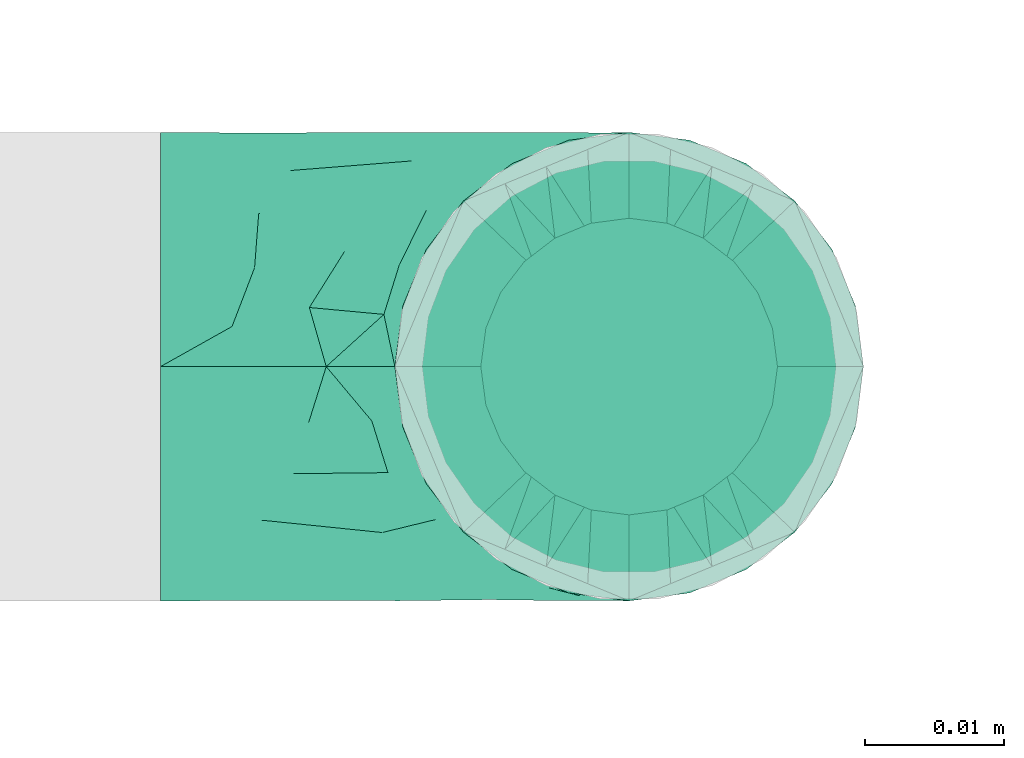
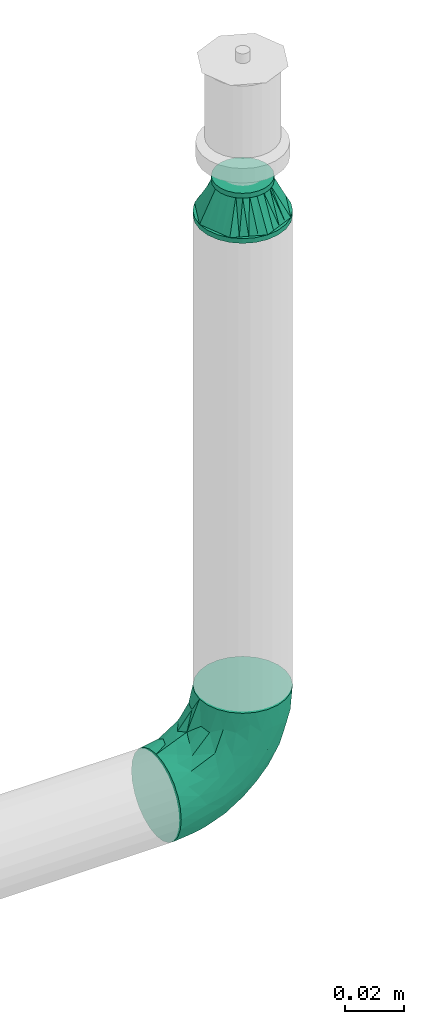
# One storey, part 62 of 157: 2 flow fittings.
"""IFC2X3 building model written with IfcOpenShell, lengths in millimetres."""

from ifc_helpers import new_model, entity, si_unit, converted_unit, derived_unit, direction, frame, origin_with_axes, place, context, subcontext, project, spatial, open_shell, surface_model, source, transform, mapped, type_object, element, save


model = new_model("IFC2X3")

# Units and contexts
model_context = context("Model", 3, precision=0.01, world=frame((0.0, 4.29681676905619e-09, 0.0)), true_north=direction((4.01073788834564e-13, 1.0)))
plan_context = context("Plan", 3, precision=0.01, world=frame((0.0, 4.29681676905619e-09, 0.0)), true_north=direction((4.01073788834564e-13, 1.0)))
body_context = subcontext(model_context, "Body", "Model", "MODEL_VIEW")
ifc_project = project(units=[converted_unit("PLANEANGLEUNIT", "DEGREE", entity("IfcPositiveLengthMeasure", 0.0174532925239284), si_unit("PLANEANGLEUNIT", "RADIAN"), dimensions=[0, 0, 0, 0, 0, 0, 0]), si_unit("AREAUNIT", "SQUARE_METRE"), si_unit("LENGTHUNIT", "METRE", prefix="MILLI"), si_unit("MASSUNIT", "GRAM", prefix="KILO"), si_unit("POWERUNIT", "WATT"), si_unit("PRESSUREUNIT", "PASCAL"), si_unit("FORCEUNIT", "NEWTON", prefix="KILO"), si_unit("ELECTRICCURRENTUNIT", "AMPERE"), si_unit("THERMODYNAMICTEMPERATUREUNIT", "DEGREE_CELSIUS"), si_unit("TIMEUNIT", "SECOND"), si_unit("VOLUMEUNIT", "CUBIC_METRE"), derived_unit("LINEARVELOCITYUNIT", [(si_unit("LENGTHUNIT", "METRE"), 1), (si_unit("TIMEUNIT", "SECOND"), -1)]), derived_unit("VOLUMETRICFLOWRATEUNIT", [(si_unit("VOLUMEUNIT", "CUBIC_METRE"), 1), (si_unit("TIMEUNIT", "SECOND"), -1)]), derived_unit("THERMALTRANSMITTANCEUNIT", [(si_unit("POWERUNIT", "WATT"), 1), (si_unit("THERMODYNAMICTEMPERATUREUNIT", "KELVIN"), -1), (si_unit("AREAUNIT", "SQUARE_METRE"), -1)])], contexts=[model_context, plan_context])

# Site, building, storey
site_placement = place(None, frame((0.0, -4.29681676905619e-09, 0.0), z_axis=(0.0, 0.0, 1.0), x_axis=(1.0, 0.0, 0.0)))
site = spatial("IfcSite", under=ifc_project, at=site_placement, CompositionType="ELEMENT")
building_placement = place(site_placement, frame((0.0, 4.29681676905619e-09, 0.0), z_axis=(0.0, 0.0, 1.0), x_axis=(1.0, 0.0, 0.0)))
building = spatial("IfcBuilding", under=site, at=building_placement, Name="mc-building", CompositionType="ELEMENT")
storey_placement = place(building_placement, frame((0.0, 0.0, 204000.0), z_axis=(0.0, 0.0, 1.0), x_axis=(1.0, 0.0, 0.0)))
storey = spatial("IfcBuildingStorey", under=building, at=storey_placement, Name="Nivå D", CompositionType="ELEMENT", Elevation=204000.0)

# Flow fittings
pipe_fitting_type_1 = type_object("IfcPipeFittingType", Name="magi_pipe_fe_reducer_centric_short_NOR", PredefinedType="TRANSITION")
shared_shape_1 = source(origin_with_axes(), body_context, "Body", "SurfaceModel", [
    surface_model("IfcShellBasedSurfaceModel", [(14.4, 5.35, -9.26647), (14.4, 0.0, -10.7), (14.4, 2.76936, -10.33541), (14.4, 10.33541, -2.76936), (14.4, 7.56604, -7.56604), (14.4, -10.33541, -2.76936), (14.4, 9.26647, -5.35), (14.4, 0.0, 10.7), (14.4, -5.35, -9.26647), (14.4, -2.76936, -10.33541), (14.4, -7.56604, -7.56604), (14.4, -9.26647, -5.35), (14.4, 10.7, 0.0), (14.4, 10.33541, 2.76936), (14.4, 9.26647, 5.35), (14.4, 7.56604, 7.56604), (14.4, 2.76936, 10.33541), (14.4, 5.35, 9.26647), (14.4, -10.33541, 2.76936), (14.4, -7.56604, 7.56604), (14.4, -9.26647, 5.35), (14.4, -10.7, 0.0), (14.4, -2.76936, 10.33541), (14.4, -5.35, 9.26647), (12.4, 2.76936, 10.33541), (12.4, -10.33541, -2.76936), (12.4, 0.0, 10.7), (12.4, 5.35, 9.26647), (12.4, 7.56604, 7.56604), (12.4, 9.26647, 5.35), (12.4, 10.33541, 2.76936), (12.4, -10.33541, 2.76936), (12.4, -2.76936, 10.33541), (12.4, -7.56604, 7.56604), (12.4, -5.35, 9.26647), (12.4, -9.26647, 5.35), (12.4, -10.7, 0.0), (12.4, 10.33541, -2.76936), (12.4, 5.35, -9.26647), (12.4, 9.26647, -5.35), (12.4, 7.56604, -7.56604), (12.4, 2.76936, -10.33541), (12.4, -9.26647, -5.35), (12.4, -5.35, -9.26647), (12.4, -7.56604, -7.56604), (12.4, 0.0, -10.7), (12.4, -2.76936, -10.33541), (12.4, 10.7, 0.0), (-2.0, 11.9501, 11.9501), (-2.0, 0.0, 16.9), (-2.0, 4.37404, 16.32415), (-2.0, 8.45, 14.63583), (-2.0, 14.63583, 8.45), (-2.0, 16.32415, 4.37404), (-2.0, -16.32415, 4.37404), (-2.0, -8.45, 14.63583), (-2.0, -14.63583, 8.45), (-2.0, -11.9501, 11.9501), (-2.0, -4.37404, 16.32415), (-2.0, -16.32415, -4.37404), (-2.0, -16.9, 0.0), (-2.0, -8.45, -14.63583), (-2.0, 16.32415, -4.37404), (-2.0, 11.9501, -11.9501), (-2.0, 14.63583, -8.45), (-2.0, 8.45, -14.63583), (-2.0, 4.37404, -16.32415), (-2.0, 0.0, -16.9), (-2.0, -11.9501, -11.9501), (-2.0, -14.63583, -8.45), (-2.0, -4.37404, -16.32415), (-2.0, 16.9, 0.0), (0.0, 4.37404, -16.32415), (0.0, 8.45, -14.63583), (0.0, 11.9501, -11.9501), (0.0, 0.0, -16.9), (0.0, 16.32415, -4.37404), (0.0, 16.32415, 4.37404), (0.0, 14.63583, -8.45), (0.0, -8.45, -14.63583), (0.0, -4.37404, -16.32415), (0.0, -11.9501, -11.9501), (0.0, -16.32415, -4.37404), (0.0, -14.63583, -8.45), (0.0, -16.32415, 4.37404), (0.0, 16.9, 0.0), (0.0, 14.63583, 8.45), (0.0, 11.9501, 11.9501), (0.0, 4.37404, 16.32415), (0.0, 8.45, 14.63583), (0.0, 0.0, 16.9), (0.0, -14.63583, 8.45), (0.0, -16.9, 0.0), (0.0, -8.45, 14.63583), (0.0, -11.9501, 11.9501), (0.0, -4.37404, 16.32415), (12.4, 9.3625, -2.31662), (0.0, 14.42505, -5.97505), (0.0, 15.66253, -2.98753), (12.4, -6.6875, -6.94985), (0.0, -13.18758, -8.96258), (0.0, 2.98753, -15.66253), (12.4, 0.0, -9.26647), (12.4, 6.6875, -6.94985), (0.0, 8.96258, -13.18758), (12.4, -9.3625, -2.31662), (0.0, -15.66253, -2.98753), (0.0, -14.42505, -5.97505), (0.0, 5.97505, -14.42505), (0.0, -2.98753, -15.66253), (0.0, -8.96258, -13.18758), (0.0, 13.18758, -8.96258), (12.4, 8.025, -4.63324), (12.4, -2.675, -9.26647), (12.4, 2.675, -9.26647), (0.0, -5.97505, -14.42505), (12.4, -8.025, -4.63324), (12.4, -9.3625, 2.31662), (0.0, -14.42505, 5.97505), (0.0, -15.66253, 2.98753), (12.4, 6.6875, 6.94985), (0.0, 13.18758, 8.96258), (0.0, -2.98753, 15.66253), (12.4, 0.0, 9.26647), (12.4, -6.6875, 6.94985), (0.0, -8.96258, 13.18758), (12.4, 9.3625, 2.31662), (0.0, 15.66253, 2.98753), (0.0, 14.42505, 5.97505), (0.0, -5.97505, 14.42505), (0.0, 2.98753, 15.66253), (0.0, 8.96258, 13.18758), (0.0, -13.18758, 8.96258), (12.4, -8.025, 4.63324), (12.4, 2.675, 9.26647), (12.4, -2.675, 9.26647), (0.0, 5.97505, 14.42505), (12.4, 8.025, 4.63324)], [open_shell([[[0, 1, 2]], [[3, 0, 4]], [[5, 0, 3]], [[3, 4, 6]], [[7, 5, 3]], [[1, 8, 9]], [[1, 0, 8]], [[10, 5, 11]], [[5, 10, 8]], [[0, 5, 8]], [[3, 12, 13]], [[13, 14, 15]], [[13, 15, 16]], [[7, 3, 16]], [[16, 15, 17]], [[7, 18, 5]], [[18, 19, 20]], [[21, 5, 18]], [[19, 22, 23]], [[22, 19, 18]], [[7, 22, 18]], [[13, 16, 3]], [[24, 25, 26]], [[27, 25, 24]], [[28, 29, 30]], [[28, 25, 27]], [[31, 26, 25]], [[32, 33, 34]], [[33, 32, 31]], [[33, 31, 35]], [[32, 26, 31]], [[31, 25, 36]], [[30, 37, 28]], [[25, 28, 37]], [[38, 37, 39]], [[37, 38, 25]], [[38, 39, 40]], [[41, 25, 38]], [[42, 43, 44]], [[43, 42, 25]], [[43, 45, 46]], [[43, 25, 41]], [[41, 45, 43]], [[37, 30, 47]], [[25, 5, 36]], [[42, 11, 25]], [[8, 44, 43]], [[42, 44, 10]], [[9, 43, 46]], [[25, 11, 5]], [[5, 21, 36]], [[9, 8, 43]], [[10, 44, 8]], [[10, 11, 42]], [[1, 9, 46]], [[46, 45, 1]], [[41, 2, 45]], [[38, 0, 41]], [[6, 40, 39]], [[38, 40, 4]], [[3, 39, 37]], [[38, 4, 0]], [[0, 2, 41]], [[12, 3, 37]], [[6, 39, 3]], [[6, 4, 40]], [[47, 12, 37]], [[45, 2, 1]], [[30, 13, 47]], [[29, 14, 30]], [[17, 28, 27]], [[29, 28, 15]], [[16, 27, 24]], [[30, 14, 13]], [[13, 12, 47]], [[16, 17, 27]], [[15, 28, 17]], [[15, 14, 29]], [[7, 16, 24]], [[24, 26, 7]], [[32, 22, 26]], [[34, 23, 32]], [[20, 33, 35]], [[34, 33, 19]], [[18, 35, 31]], [[34, 19, 23]], [[23, 22, 32]], [[21, 18, 31]], [[20, 35, 18]], [[20, 19, 33]], [[36, 21, 31]], [[26, 22, 7]], [[48, 49, 50]], [[48, 50, 51]], [[48, 52, 53]], [[48, 53, 49]], [[49, 53, 54]], [[55, 56, 57]], [[55, 58, 49]], [[56, 55, 49]], [[49, 54, 56]], [[54, 59, 60]], [[54, 53, 61]], [[53, 62, 63]], [[63, 62, 64]], [[63, 65, 66]], [[61, 53, 63]], [[67, 63, 66]], [[59, 68, 69]], [[68, 59, 61]], [[61, 67, 70]], [[59, 54, 61]], [[63, 67, 61]], [[53, 71, 62]], [[72, 73, 74]], [[75, 72, 74]], [[74, 76, 77]], [[76, 74, 78]], [[74, 77, 79]], [[75, 79, 80]], [[75, 74, 79]], [[81, 82, 83]], [[82, 81, 79]], [[79, 84, 82]], [[77, 76, 85]], [[77, 86, 87]], [[77, 87, 88]], [[88, 84, 79]], [[88, 87, 89]], [[84, 88, 90]], [[90, 91, 84]], [[92, 82, 84]], [[91, 93, 94]], [[91, 90, 93]], [[93, 90, 95]], [[79, 77, 88]], [[59, 82, 60]], [[69, 83, 59]], [[79, 68, 61]], [[69, 68, 81]], [[80, 61, 70]], [[59, 83, 82]], [[82, 92, 60]], [[80, 79, 61]], [[81, 68, 79]], [[81, 83, 69]], [[75, 80, 70]], [[70, 67, 75]], [[66, 72, 67]], [[65, 73, 66]], [[78, 63, 64]], [[65, 63, 74]], [[76, 64, 62]], [[65, 74, 73]], [[73, 72, 66]], [[85, 76, 62]], [[78, 64, 76]], [[78, 74, 63]], [[71, 85, 62]], [[67, 72, 75]], [[53, 77, 71]], [[52, 86, 53]], [[89, 48, 51]], [[52, 48, 87]], [[88, 51, 50]], [[53, 86, 77]], [[77, 85, 71]], [[88, 89, 51]], [[87, 48, 89]], [[87, 86, 52]], [[90, 88, 50]], [[50, 49, 90]], [[58, 95, 49]], [[55, 93, 58]], [[91, 57, 56]], [[55, 57, 94]], [[84, 56, 54]], [[55, 94, 93]], [[93, 95, 58]], [[92, 84, 54]], [[91, 56, 84]], [[91, 94, 57]], [[60, 92, 54]], [[49, 95, 90]], [[27, 34, 47]], [[47, 34, 43]], [[43, 38, 47]], [[43, 34, 36]], [[90, 87, 94]], [[92, 94, 87]], [[87, 74, 92]], [[75, 92, 74]], [[81, 92, 75]], [[74, 87, 85]], [[96, 97, 98]], [[81, 99, 100]], [[101, 102, 75]], [[98, 85, 47]], [[74, 103, 104]], [[104, 103, 38]], [[105, 106, 107]], [[38, 108, 104]], [[102, 109, 75]], [[110, 99, 81]], [[47, 96, 98]], [[103, 111, 112]], [[109, 102, 113]], [[36, 92, 106]], [[102, 101, 114]], [[110, 115, 43]], [[96, 112, 97]], [[107, 116, 105]], [[36, 106, 105]], [[113, 115, 109]], [[43, 115, 113]], [[116, 107, 100]], [[108, 38, 114]], [[111, 103, 74]], [[111, 97, 112]], [[99, 110, 43]], [[116, 100, 99]], [[101, 108, 114]], [[117, 118, 119]], [[87, 120, 121]], [[122, 123, 90]], [[119, 92, 36]], [[94, 124, 125]], [[125, 124, 34]], [[126, 127, 128]], [[34, 129, 125]], [[123, 130, 90]], [[131, 120, 87]], [[36, 117, 119]], [[124, 132, 133]], [[130, 123, 134]], [[47, 85, 127]], [[123, 122, 135]], [[131, 136, 27]], [[117, 133, 118]], [[128, 137, 126]], [[47, 127, 126]], [[134, 136, 130]], [[27, 136, 134]], [[137, 128, 121]], [[129, 34, 135]], [[132, 124, 94]], [[132, 118, 133]], [[120, 131, 27]], [[137, 121, 120]], [[122, 129, 135]]])]),
])
flow_fitting_1_placement = place(storey_placement, frame((520040.35, 411870.36705, 3160.14799999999), z_axis=(0.0, -1.0, 0.0), x_axis=(0.0, 0.0, 1.0)))
element("IfcFlowFitting", 1, at=flow_fitting_1_placement, inside=storey, type_object=pipe_fitting_type_1, Name="magi_pipe_fe_reducer_centric_short_NOR", context=body_context, shape_type="MappedRepresentation", body=[
    mapped(shared_shape_1, transform((0.0, 0.0, 0.0), scale=1.0)),
])
pipe_fitting_type_2 = type_object("IfcPipeFittingType", Name="magi_pipe_fe_elbow_short_001", PredefinedType="BEND")
shared_shape_2 = source(origin_with_axes(), body_context, "Body", "SurfaceModel", [
    surface_model("IfcShellBasedSurfaceModel", [(-33.8, 8.45, -14.63583), (-33.8, 4.37404, -16.32415), (-33.8, 11.9501, -11.9501), (-33.8, -11.9501, -11.9501), (-33.8, -14.63583, -8.45), (-33.8, -8.45, -14.63583), (-33.8, 0.0, -16.9), (-33.8, -4.37404, -16.32415), (-33.8, -4.37404, 16.32415), (-33.8, 0.0, 16.9), (-33.8, -8.45, 14.63583), (-33.8, 16.32415, -4.37404), (-33.8, 14.63583, -8.45), (-33.8, -16.32415, -4.37404), (-33.8, -16.9, 0.0), (-33.8, -16.32415, 4.37404), (-33.8, 11.9501, 11.9501), (-33.8, 14.63583, 8.45), (-33.8, 16.32415, 4.37404), (-33.8, 4.37404, 16.32415), (-33.8, 8.45, 14.63583), (-33.8, -14.63583, 8.45), (-33.8, -11.9501, 11.9501), (-33.8, 16.9, 0.0), (-11.9501, 33.8, -11.9501), (0.0, 33.8, -16.9), (-4.37404, 33.8, -16.32415), (-8.45, 33.8, -14.63583), (-14.63583, 33.8, -8.45), (-16.32415, 33.8, -4.37404), (14.63583, 33.8, -8.45), (8.45, 33.8, 14.63583), (16.32415, 33.8, -4.37404), (8.45, 33.8, -14.63583), (11.9501, 33.8, -11.9501), (4.37404, 33.8, -16.32415), (16.32415, 33.8, 4.37404), (16.9, 33.8, 0.0), (-11.9501, 33.8, 11.9501), (-16.32415, 33.8, 4.37404), (-14.63583, 33.8, 8.45), (-8.45, 33.8, 14.63583), (-4.37404, 33.8, 16.32415), (11.9501, 33.8, 11.9501), (14.63583, 33.8, 8.45), (0.0, 33.8, 16.9), (4.37404, 33.8, 16.32415), (-16.9, 33.8, 0.0), (-24.79389, -13.12945, 9.48721), (-22.19287, -9.75018, 12.59315), (-24.09897, -14.97035, 0.0), (-14.93934, -10.76256, 8.5297), (-22.46095, -14.75051, 5.27077), (14.75051, 22.46094, 5.27077), (11.9251, 13.23888, 4.33236), (13.04069, 14.39795, 0.0), (7.71387, 13.68847, 11.55891), (9.75018, 22.19287, 12.59315), (4.10169, 13.0571, 14.04018), (-24.84007, -6.39063, 15.2048), (-25.81779, -2.23879, 16.61097), (-23.66549, 2.59054, 16.87119), (-26.50418, 14.06512, 11.08152), (-24.21253, 17.66365, 7.72657), (-29.58514, 15.86957, 7.00283), (-6.17382, -7.5455, 0.0), (-13.23888, -11.9251, 4.33236), (-14.39795, -13.04069, 0.0), (-17.81434, 18.87373, 11.97104), (-6.30846, 29.15138, 15.82987), (-2.31622, 25.28002, 16.85849), (-29.23923, 10.23435, 13.77053), (-1.45439, -2.85688, 7.61475), (-0.28326, 0.34872, 10.09509), (-5.74484, -4.04709, 10.4122), (-4.41137, 11.31918, 16.59407), (-8.39727, 3.10034, 15.7812), (-1.72649, 9.1306, 15.53089), (-17.39909, 24.75344, 7.64977), (-26.19233, 20.0512, 0.0), (-28.14518, 17.29657, 4.25857), (-26.05147, 6.6281, 15.96447), (-5.87354, 16.61944, 16.86968), (-12.51807, 12.51807, 16.48937), (-10.06312, 7.38516, 16.81295), (-3.01882, 3.01882, 13.81718), (-13.0571, -4.10169, 14.04018), (-16.82553, -0.15166, 16.38038), (10.76256, 14.93934, 8.5297), (13.12945, 24.79389, 9.48721), (6.39063, 24.84007, 15.2048), (2.23879, 25.81779, 16.61097), (-13.68847, -7.71387, 11.55891), (14.97035, 24.09897, 0.0), (-7.30894, 22.89991, 16.09489), (-10.67958, 26.17414, 14.008), (-12.78295, 18.26924, 15.06066), (-13.88562, 22.45231, 12.93244), (-18.04944, 15.16501, 14.04434), (-23.11658, 20.08178, 4.02986), (-21.84989, 21.84989, 0.0), (-18.55817, 25.48277, 3.93065), (-13.95142, 26.94732, 11.03289), (-18.57098, 7.23906, 16.59756), (-16.58335, 4.14122, 16.89279), (-17.96666, 11.46709, 15.63151), (-9.84453, 17.54304, 16.18938), (0.15166, 16.82553, 16.38038), (-23.27207, 11.47201, 14.23154), (3.84842, 5.86994, 10.70473), (-8.0212, -7.54413, 7.93275), (1.00345, -2.19508, 4.57414), (5.13203, 3.01004, 5.90201), (5.24161, 1.7543, 2.53265), (8.70457, 7.04947, 3.99182), (-20.0512, 26.19233, 0.0), (8.4852, 8.76699, 7.09296), (-4.55488, -6.72064, 4.90681), (2.05031, -2.05031, 0.0), (7.5455, 6.17382, 0.0), (-26.75399, 2.1369, -16.845), (-14.61995, 24.73803, -11.27736), (-28.45274, -13.45335, -9.81895), (-26.00469, 6.63555, -15.96645), (-23.06726, 20.04573, -4.26202), (-13.80647, -4.26506, -14.17873), (-14.67501, -0.21081, -16.07388), (-6.7902, -0.2828, -13.8478), (-24.53586, 11.08096, -14.13417), (-26.72048, 14.00837, -11.05776), (10.0967, 24.44989, -12.75976), (5.83237, 21.40218, -15.03047), (6.66249, 28.54238, -15.38093), (-20.38182, 15.48705, -12.74596), (12.53268, 21.23441, -9.15363), (12.54494, 15.67504, -5.54878), (9.7522, 12.89279, -8.66343), (-15.65186, 19.64213, -13.01327), (-12.03528, 20.66498, -14.67665), (-15.61907, 15.61906, -14.83879), (-25.56551, -15.26206, 0.0), (-24.65452, -15.12934, -5.50955), (13.45335, 28.45274, -9.81895), (15.12934, 24.65452, -5.50955), (-7.35442, -8.31014, -5.65563), (-15.67504, -12.54494, -5.54878), (-24.44989, -10.0967, -12.75976), (0.16522, 0.41303, -9.71728), (-5.70658, -5.33066, -8.89288), (-5.13869, -2.37198, -11.53565), (-21.23441, -12.53268, -9.15363), (0.71146, 7.93863, -14.09382), (0.21081, 14.67501, -16.07388), (3.49291, 14.42772, -14.76381), (-24.89911, -2.13088, -16.591), (-28.54238, -6.66249, -15.38093), (-18.44386, -7.71663, -13.26957), (2.13088, 24.89911, -16.591), (-28.64342, 17.44413, -2.89318), (1.70017, -1.28722, -5.09504), (-16.57067, 26.81947, -7.36596), (-17.69055, 27.4263, -3.76405), (-12.89279, -9.7522, -8.66343), (-5.96611, 5.96611, -15.95814), (-20.53709, 20.09345, -8.28985), (-2.1369, 26.75399, -16.845), (-6.89872, 24.58781, -16.02578), (-10.60739, 26.53157, -13.98044), (-21.40218, -5.83237, -15.03047), (2.93192, 5.89627, -11.55917), (6.89393, 12.61842, -11.82233), (5.58056, 5.95325, -8.79455), (-3.99512, 18.61798, -16.89635), (8.31014, 7.35442, -5.65563), (-9.1383, 9.86148, -16.89041), (-9.99983, 16.02119, -16.39699), (-16.68576, 9.78031, -16.34199), (-27.01915, 16.61158, -7.12979), (15.26206, 25.56551, 0.0), (-18.61798, 3.99512, -16.89635), (-19.37495, 27.82495, 0.0), (-12.61842, -6.89393, -11.82233), (-18.84705, 19.14018, -10.96545)], [open_shell([[[0, 1, 2]], [[3, 4, 5]], [[6, 7, 5]], [[8, 9, 10]], [[1, 6, 2]], [[11, 12, 2]], [[4, 2, 6]], [[2, 13, 10]], [[5, 4, 6]], [[2, 4, 13]], [[14, 15, 13]], [[11, 2, 16]], [[11, 17, 18]], [[11, 16, 17]], [[19, 20, 16]], [[16, 2, 10]], [[19, 16, 10]], [[21, 22, 15]], [[22, 13, 15]], [[22, 10, 13]], [[10, 9, 19]], [[11, 18, 23]], [[24, 25, 26]], [[24, 26, 27]], [[24, 28, 29]], [[25, 24, 30]], [[31, 32, 24]], [[33, 30, 34]], [[33, 35, 25]], [[25, 30, 33]], [[32, 30, 24]], [[32, 36, 37]], [[38, 24, 29]], [[39, 40, 29]], [[40, 38, 29]], [[38, 41, 42]], [[38, 31, 24]], [[31, 38, 42]], [[36, 43, 44]], [[36, 32, 43]], [[31, 45, 46]], [[32, 31, 43]], [[42, 45, 31]], [[39, 29, 47]], [[22, 48, 49]], [[15, 14, 50]], [[51, 48, 52]], [[53, 54, 55]], [[48, 22, 21]], [[15, 52, 21]], [[56, 57, 58]], [[49, 10, 22]], [[49, 59, 10]], [[9, 60, 61]], [[62, 63, 64]], [[65, 66, 67]], [[57, 43, 31]], [[62, 68, 63]], [[42, 69, 70]], [[20, 71, 16]], [[8, 60, 9]], [[72, 73, 74]], [[75, 76, 77]], [[16, 62, 17]], [[40, 39, 78]], [[79, 23, 80]], [[64, 18, 17]], [[9, 61, 19]], [[19, 81, 20]], [[82, 83, 84]], [[74, 85, 86]], [[59, 86, 87]], [[88, 89, 57]], [[90, 31, 46]], [[44, 53, 36]], [[46, 45, 91]], [[54, 53, 88]], [[44, 89, 53]], [[92, 86, 49]], [[89, 44, 43]], [[10, 59, 8]], [[53, 55, 93]], [[93, 36, 53]], [[66, 52, 67]], [[94, 82, 70]], [[95, 96, 94]], [[97, 98, 96]], [[79, 99, 100]], [[41, 38, 95]], [[101, 100, 99]], [[68, 78, 63]], [[42, 41, 69]], [[23, 18, 80]], [[95, 94, 69]], [[78, 101, 99]], [[38, 102, 95]], [[70, 45, 42]], [[97, 95, 102]], [[15, 50, 52]], [[90, 57, 31]], [[57, 90, 58]], [[81, 19, 61]], [[103, 104, 84]], [[105, 81, 103]], [[38, 40, 102]], [[106, 96, 83]], [[94, 106, 82]], [[91, 70, 107]], [[71, 62, 16]], [[62, 108, 98]], [[86, 59, 49]], [[67, 52, 50]], [[60, 59, 87]], [[92, 49, 51]], [[86, 85, 76]], [[91, 90, 46]], [[37, 36, 93]], [[107, 77, 58]], [[107, 58, 90]], [[58, 85, 109]], [[110, 74, 92]], [[72, 74, 110]], [[66, 51, 52]], [[72, 111, 112]], [[113, 114, 112]], [[56, 88, 57]], [[52, 48, 21]], [[49, 48, 51]], [[57, 89, 43]], [[53, 89, 88]], [[103, 81, 61]], [[71, 81, 108]], [[18, 64, 80]], [[63, 78, 99]], [[47, 115, 101]], [[101, 115, 100]], [[40, 78, 102]], [[68, 102, 78]], [[97, 96, 95]], [[105, 98, 108]], [[103, 84, 83]], [[107, 70, 82]], [[76, 84, 87]], [[82, 84, 75]], [[70, 91, 45]], [[90, 91, 107]], [[59, 60, 8]], [[61, 60, 87]], [[73, 85, 74]], [[109, 112, 116]], [[103, 61, 104]], [[105, 103, 83]], [[96, 105, 83]], [[81, 105, 108]], [[96, 98, 105]], [[62, 98, 68]], [[61, 87, 104]], [[87, 84, 104]], [[86, 76, 87]], [[77, 76, 85]], [[58, 77, 85]], [[75, 77, 107]], [[82, 75, 107]], [[76, 75, 84]], [[81, 71, 20]], [[62, 71, 108]], [[95, 69, 41]], [[70, 69, 94]], [[62, 64, 17]], [[80, 63, 99]], [[63, 80, 64]], [[80, 99, 79]], [[66, 65, 117]], [[110, 66, 117]], [[112, 114, 116]], [[118, 117, 65]], [[110, 92, 51]], [[112, 111, 113]], [[119, 55, 54]], [[74, 86, 92]], [[58, 109, 56]], [[116, 56, 109]], [[66, 110, 51]], [[72, 110, 117]], [[111, 72, 117]], [[73, 112, 109]], [[117, 118, 111]], [[113, 111, 118]], [[118, 119, 113]], [[114, 119, 54]], [[119, 114, 113]], [[116, 54, 88]], [[54, 116, 114]], [[116, 88, 56]], [[112, 73, 72]], [[85, 73, 109]], [[78, 39, 101]], [[47, 101, 39]], [[102, 68, 97]], [[97, 68, 98]], [[82, 106, 83]], [[94, 96, 106]], [[1, 120, 6]], [[28, 24, 121]], [[3, 122, 4]], [[0, 123, 1]], [[100, 124, 79]], [[125, 126, 127]], [[128, 2, 129]], [[130, 131, 132]], [[128, 129, 133]], [[134, 135, 136]], [[137, 138, 139]], [[128, 0, 2]], [[67, 140, 141]], [[134, 142, 143]], [[141, 13, 4]], [[144, 65, 145]], [[146, 3, 5]], [[147, 148, 149]], [[145, 141, 150]], [[151, 152, 153]], [[154, 7, 6]], [[5, 155, 146]], [[150, 146, 156]], [[155, 5, 7]], [[143, 135, 134]], [[35, 157, 25]], [[23, 79, 158]], [[148, 159, 144]], [[160, 161, 29]], [[145, 162, 144]], [[163, 152, 151]], [[29, 28, 160]], [[121, 164, 160]], [[33, 34, 130]], [[25, 165, 26]], [[26, 165, 166]], [[142, 34, 30]], [[24, 27, 167]], [[124, 161, 164]], [[157, 35, 132]], [[155, 154, 168]], [[123, 0, 128]], [[169, 170, 171]], [[172, 157, 152]], [[26, 166, 27]], [[132, 35, 33]], [[142, 130, 34]], [[168, 154, 126]], [[136, 135, 173]], [[133, 137, 139]], [[2, 12, 129]], [[170, 131, 130]], [[30, 32, 143]], [[172, 174, 175]], [[176, 123, 128]], [[158, 177, 11]], [[135, 55, 119]], [[167, 27, 166]], [[175, 166, 172]], [[137, 167, 138]], [[122, 141, 4]], [[140, 14, 13]], [[32, 37, 178]], [[170, 130, 134]], [[152, 157, 131]], [[165, 157, 172]], [[153, 170, 151]], [[152, 163, 174]], [[168, 125, 156]], [[122, 146, 150]], [[120, 154, 6]], [[179, 174, 126]], [[179, 126, 154]], [[126, 163, 127]], [[162, 145, 150]], [[140, 13, 141]], [[32, 178, 143]], [[55, 143, 178]], [[177, 129, 12]], [[128, 133, 139]], [[176, 128, 139]], [[120, 123, 179]], [[121, 160, 28]], [[161, 100, 180]], [[166, 175, 138]], [[121, 24, 167]], [[161, 47, 29]], [[79, 124, 158]], [[124, 164, 177]], [[161, 124, 100]], [[136, 171, 170]], [[127, 163, 151]], [[147, 171, 159]], [[148, 144, 162]], [[127, 151, 169]], [[127, 181, 125]], [[129, 177, 164]], [[12, 11, 177]], [[159, 65, 144]], [[67, 141, 145]], [[143, 55, 135]], [[135, 119, 173]], [[123, 120, 1]], [[154, 120, 179]], [[157, 165, 25]], [[166, 165, 172]], [[172, 152, 174]], [[176, 139, 175]], [[126, 174, 163]], [[176, 174, 179]], [[174, 176, 175]], [[123, 176, 179]], [[150, 181, 162]], [[127, 149, 181]], [[181, 148, 162]], [[159, 148, 147]], [[171, 136, 173]], [[170, 134, 136]], [[159, 171, 173]], [[171, 147, 169]], [[169, 147, 149]], [[151, 170, 169]], [[164, 182, 129]], [[182, 121, 137]], [[181, 149, 148]], [[169, 149, 127]], [[182, 137, 133]], [[167, 137, 121]], [[166, 138, 167]], [[175, 139, 138]], [[129, 182, 133]], [[121, 182, 164]], [[161, 160, 164]], [[47, 161, 180]], [[177, 158, 124]], [[23, 158, 11]], [[130, 132, 33]], [[157, 132, 131]], [[143, 142, 30]], [[130, 142, 134]], [[154, 155, 7]], [[146, 155, 168]], [[146, 122, 3]], [[141, 122, 150]], [[152, 131, 153]], [[159, 119, 118]], [[67, 145, 65]], [[170, 153, 131]], [[119, 159, 173]], [[159, 118, 65]], [[156, 125, 181]], [[126, 125, 168]], [[150, 156, 181]], [[168, 156, 146]]])]),
])
flow_fitting_2_placement = place(storey_placement, frame((520040.35, 411870.36705, 2930.0), z_axis=(0.0, -1.0, 0.0), x_axis=(1.0, 0.0, 0.0)))
element("IfcFlowFitting", 2, at=flow_fitting_2_placement, inside=storey, type_object=pipe_fitting_type_2, Name="magi_pipe_fe_elbow_short_001", context=body_context, shape_type="MappedRepresentation", body=[
    mapped(shared_shape_2, transform((0.0, 0.0, 0.0), scale=1.0)),
])

save(model, "model.ifc")
